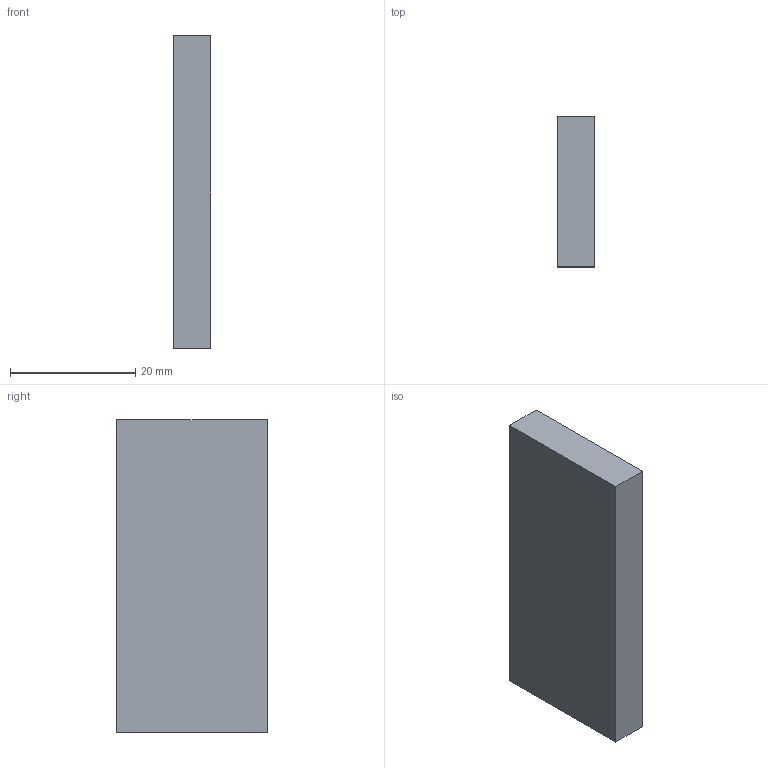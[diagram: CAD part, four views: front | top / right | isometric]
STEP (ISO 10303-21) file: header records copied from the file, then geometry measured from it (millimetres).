
FILE_DESCRIPTION(('Open CASCADE Model'),'2;1');
FILE_NAME('Open CASCADE Shape Model','2026-11-23T20:25:51',('Author'),( 'Open CASCADE'),'Open CASCADE STEP processor 7.9','Open CASCADE 7.9' ,'Unknown');
FILE_SCHEMA(('AUTOMOTIVE_DESIGN { 1 0 10303 214 1 1 1 1 }'));
Length unit declared in the file: millimetre
Products named in the file (1): Open CASCADE STEP translator 7.9 29
Bounding box: 6 x 24 x 50 mm (x, y, z)
Volume: 7200 mm3; surface area: 3288 mm2
Topology: 1 solids, 1 shells, 6 faces, 13 edges, 9 vertices
Faces by surface type: plane 6
Entity records: 344 total; most frequent: CARTESIAN_POINT 55, DIRECTION 53, LINE 39, VECTOR 39, ORIENTED_EDGE 26, PCURVE 26, DEFINITIONAL_REPRESENTATION 26, EDGE_CURVE 13
